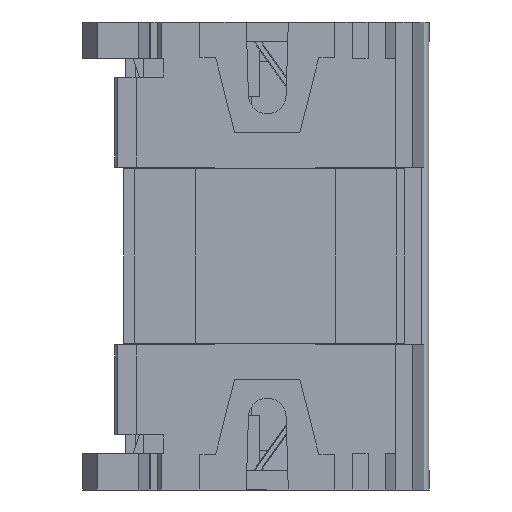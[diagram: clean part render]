
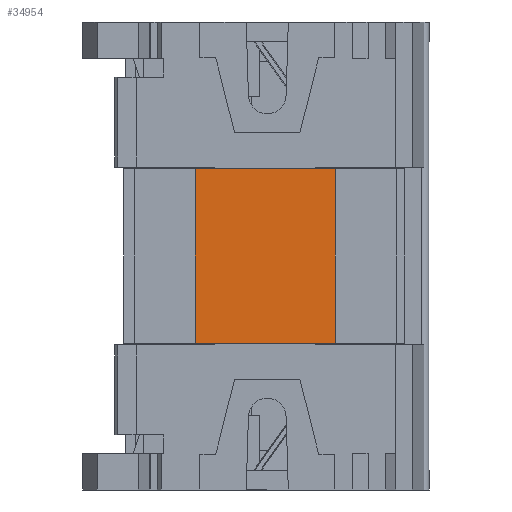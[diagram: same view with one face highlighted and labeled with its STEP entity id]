
A CAD part, front view. The second image highlights one B-rep face of the part: STEP entity #34954.
In plain terms, the highlighted planar face has unit normal (0, -1, 0).
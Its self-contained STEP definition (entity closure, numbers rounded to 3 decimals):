
#818 = EDGE_CURVE ( 'NONE', #28153, #55687, #47677, .T. ) ;
#4013 = EDGE_CURVE ( 'NONE', #57524, #7266, #26629, .T. ) ;
#6825 = LINE ( 'NONE', #19897, #41765 ) ;
#7266 = VERTEX_POINT ( 'NONE', #39040 ) ;
#7824 = DIRECTION ( 'NONE',  ( 1., 0., 0. ) ) ;
#12486 = EDGE_CURVE ( 'NONE', #7266, #28153, #15972, .T. ) ;
#14549 = VECTOR ( 'NONE', #35966, 1000. ) ;
#15972 = LINE ( 'NONE', #26770, #14549 ) ;
#16133 = CARTESIAN_POINT ( 'NONE',  ( 170.7, -44.6, 24.25 ) ) ;
#17025 = CARTESIAN_POINT ( 'NONE',  ( 170.7, -44.6, 0.25 ) ) ;
#19040 = DIRECTION ( 'NONE',  ( -1., 0., 0. ) ) ;
#19897 = CARTESIAN_POINT ( 'NONE',  ( 170.7, -44.6, 0.25 ) ) ;
#20394 = ORIENTED_EDGE ( 'NONE', *, *, #4013, .T. ) ;
#20650 = DIRECTION ( 'NONE',  ( 0., -1., 0. ) ) ;
#22847 = ORIENTED_EDGE ( 'NONE', *, *, #818, .T. ) ;
#23441 = VECTOR ( 'NONE', #19040, 1000. ) ;
#24487 = DIRECTION ( 'NONE',  ( 0., 0., -1. ) ) ;
#24860 = EDGE_LOOP ( 'NONE', ( #37832, #20394, #42176, #22847 ) ) ;
#26582 = AXIS2_PLACEMENT_3D ( 'NONE', #47952, #20650, #52514 ) ;
#26629 = LINE ( 'NONE', #17025, #50888 ) ;
#26770 = CARTESIAN_POINT ( 'NONE',  ( 190., -44.6, 0.25 ) ) ;
#27658 = CARTESIAN_POINT ( 'NONE',  ( 170.7, -44.6, 0.25 ) ) ;
#28153 = VERTEX_POINT ( 'NONE', #52166 ) ;
#34954 = ADVANCED_FACE ( 'NONE', ( #37542 ), #56882, .T. ) ;
#35966 = DIRECTION ( 'NONE',  ( 0., 0., 1. ) ) ;
#37542 = FACE_OUTER_BOUND ( 'NONE', #24860, .T. ) ;
#37832 = ORIENTED_EDGE ( 'NONE', *, *, #55622, .T. ) ;
#39040 = CARTESIAN_POINT ( 'NONE',  ( 190., -44.6, 0.25 ) ) ;
#41765 = VECTOR ( 'NONE', #24487, 1000. ) ;
#42176 = ORIENTED_EDGE ( 'NONE', *, *, #12486, .T. ) ;
#47677 = LINE ( 'NONE', #51093, #23441 ) ;
#47952 = CARTESIAN_POINT ( 'NONE',  ( 170.7, -44.6, 0.25 ) ) ;
#50888 = VECTOR ( 'NONE', #7824, 1000. ) ;
#51093 = CARTESIAN_POINT ( 'NONE',  ( 170.7, -44.6, 24.25 ) ) ;
#52166 = CARTESIAN_POINT ( 'NONE',  ( 190., -44.6, 24.25 ) ) ;
#52514 = DIRECTION ( 'NONE',  ( 0., 0., -1. ) ) ;
#55622 = EDGE_CURVE ( 'NONE', #55687, #57524, #6825, .T. ) ;
#55687 = VERTEX_POINT ( 'NONE', #16133 ) ;
#56882 = PLANE ( 'NONE',  #26582 ) ;
#57524 = VERTEX_POINT ( 'NONE', #27658 ) ;
